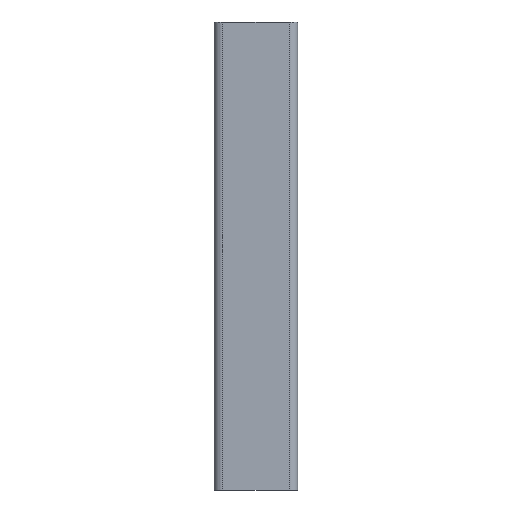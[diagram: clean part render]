
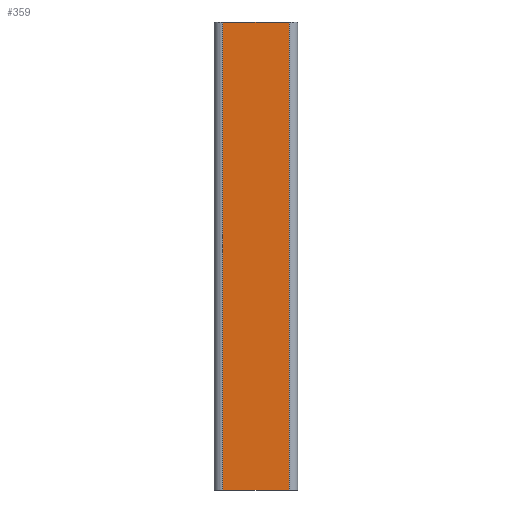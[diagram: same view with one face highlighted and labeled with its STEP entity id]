
A CAD part, left-side view. The second image highlights one B-rep face of the part: STEP entity #359.
In plain terms, the highlighted planar face has unit normal (-1, 0, 0).
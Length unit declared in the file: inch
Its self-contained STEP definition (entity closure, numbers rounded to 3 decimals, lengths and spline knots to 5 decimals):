
#5 = VECTOR ( 'NONE', #342, 39.37008 ) ;
#21 = VECTOR ( 'NONE', #345, 39.37008 ) ;
#28 = VECTOR ( 'NONE', #327, 39.37008 ) ;
#34 = VECTOR ( 'NONE', #380, 39.37008 ) ;
#41 = VERTEX_POINT ( 'NONE', #45 ) ;
#42 = VERTEX_POINT ( 'NONE', #47 ) ;
#45 = CARTESIAN_POINT ( 'NONE',  ( -0.58, 0.84937, -6. ) ) ;
#47 = CARTESIAN_POINT ( 'NONE',  ( -0.58, -0.84937, 6. ) ) ;
#159 = LINE ( 'NONE', #325, #28 ) ;
#180 = EDGE_LOOP ( 'NONE', ( #278, #285, #281, #286 ) ) ;
#207 = EDGE_CURVE ( 'NONE', #42, #260, #159, .T. ) ;
#211 = EDGE_CURVE ( 'NONE', #262, #41, #340, .T. ) ;
#213 = EDGE_CURVE ( 'NONE', #262, #42, #339, .T. ) ;
#221 = EDGE_CURVE ( 'NONE', #41, #260, #378, .T. ) ;
#260 = VERTEX_POINT ( 'NONE', #615 ) ;
#262 = VERTEX_POINT ( 'NONE', #617 ) ;
#278 = ORIENTED_EDGE ( 'NONE', *, *, #221, .T. ) ;
#281 = ORIENTED_EDGE ( 'NONE', *, *, #213, .F. ) ;
#285 = ORIENTED_EDGE ( 'NONE', *, *, #207, .F. ) ;
#286 = ORIENTED_EDGE ( 'NONE', *, *, #211, .T. ) ;
#325 = CARTESIAN_POINT ( 'NONE',  ( -0.58, -0.84937, 6. ) ) ;
#327 = DIRECTION ( 'NONE',  ( 0., 0., -1. ) ) ;
#339 = LINE ( 'NONE', #344, #21 ) ;
#340 = LINE ( 'NONE', #341, #5 ) ;
#341 = CARTESIAN_POINT ( 'NONE',  ( -0.58, 0.84937, 6. ) ) ;
#342 = DIRECTION ( 'NONE',  ( 0., 0., -1. ) ) ;
#344 = CARTESIAN_POINT ( 'NONE',  ( -0.58, -0.84937, 6. ) ) ;
#345 = DIRECTION ( 'NONE',  ( 0., -1., 0. ) ) ;
#359 = ADVANCED_FACE ( 'NONE', ( #396 ), #397, .F. ) ;
#378 = LINE ( 'NONE', #379, #34 ) ;
#379 = CARTESIAN_POINT ( 'NONE',  ( -0.58, -0.84937, -6. ) ) ;
#380 = DIRECTION ( 'NONE',  ( 0., -1., 0. ) ) ;
#391 = CARTESIAN_POINT ( 'NONE',  ( -0.58, -0.84937, 6. ) ) ;
#396 = FACE_OUTER_BOUND ( 'NONE', #180, .T. ) ;
#397 = PLANE ( 'NONE',  #548 ) ;
#399 = DIRECTION ( 'NONE',  ( 1., 0., 0. ) ) ;
#400 = DIRECTION ( 'NONE',  ( 0., 0., -1. ) ) ;
#548 = AXIS2_PLACEMENT_3D ( 'NONE', #391, #399, #400 ) ;
#615 = CARTESIAN_POINT ( 'NONE',  ( -0.58, -0.84937, -6. ) ) ;
#617 = CARTESIAN_POINT ( 'NONE',  ( -0.58, 0.84937, 6. ) ) ;
